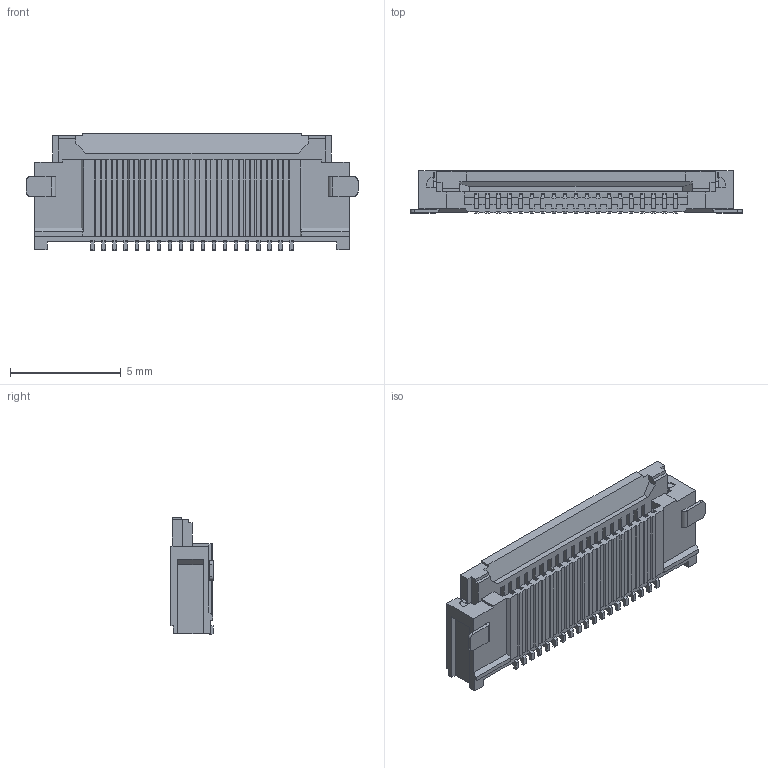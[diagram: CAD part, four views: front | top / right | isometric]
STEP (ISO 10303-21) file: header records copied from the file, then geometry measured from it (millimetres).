
FILE_DESCRIPTION((''),'2;1');
FILE_NAME('5051101992','2019-06-14T',('gga'),(''),'PRO/ENGINEER BY PARAMETRIC TECHNOLOGY CORPORATION, 2016010','PRO/ENGINEER BY PARAMETRIC TECHNOLOGY CORPORATION, 2016010','');
FILE_SCHEMA(('CONFIG_CONTROL_DESIGN'));
Length unit declared in the file: millimetre
Products named in the file (1): 5051101992
Bounding box: 15 x 1.9 x 5.3 mm (x, y, z)
Volume: 82.9 mm3; surface area: 377 mm2
Topology: 1 solids, 1 shells, 1187 faces, 3496 edges, 2328 vertices
Faces by surface type: plane 1019, cylinder 168
Entity records: 38833 total; most frequent: CARTESIAN_POINT 6935, ORIENTED_EDGE 6824, DIRECTION 6206, EDGE_CURVE 3412, VECTOR 3158, LINE 3158, VERTEX_POINT 2244, AXIS2_PLACEMENT_3D 1524
